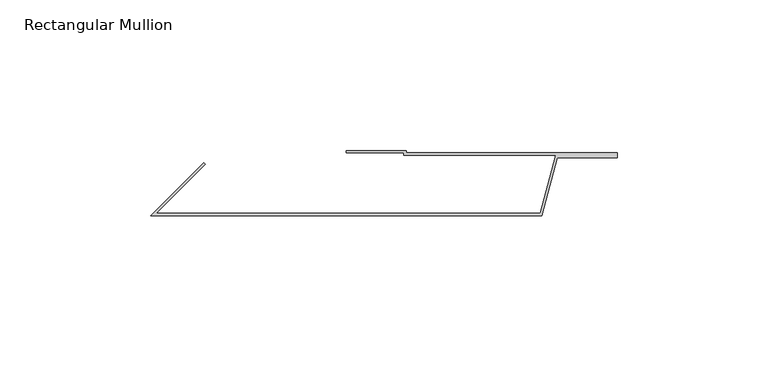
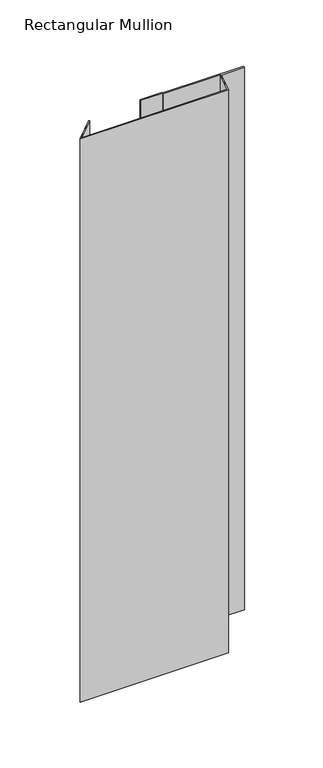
"""IFC4 building model written with IfcOpenShell, lengths in millimetres: member geometry, Rectangular Mullion : TE-V-01_02_Joint flashing."""

from ifc_helpers import new_model, si_unit, origin, place, context, project, spatial, faceted_brep, source, transform, mapped, element, save


def rectangular_mullion_5a0b59be(model_context):
    return source(origin(), model_context, "Body", "Brep", [
        faceted_brep([(0.0, 0.0, 0.0), (-20.0, 0.0, 0.0), (-20.0, -0.8, 0.0), (-0.8, -0.8, 0.0), (-0.8, -1.6, 0.0), (49.5625193, -1.6, 0.0), (44.3861384, -20.9185165, 0.0), (-83.0686292, -20.9185165, 0.0), (-66.756645, -4.6065324, 0.0), (-67.3223305, -4.040847, 0.0), (-85.0, -21.7185165, 0.0), (45.0, -21.7185165, 0.0), (50.1763809, -2.4, 0.0), (70.1186468, -2.4, 0.0), (70.1186468, -0.8, 0.0), (0.0, -0.8, 0.0), (0.0, 0.0, -500.0000003), (-20.0, 0.0, -500.0000003), (-20.0, -0.8, -500.8000003), (-0.8, -0.8, -500.8000003), (-0.8, -1.6, -501.6000003), (49.5625193, -1.6, -501.6000003), (44.3861384, -20.9185165, -520.9185168), (-83.0686292, -20.9185165, -520.9185168), (-66.756645, -4.6065324, -504.6065327), (-67.3223305, -4.040847, -504.0408473), (-85.0, -21.7185165, -521.7185168), (45.0, -21.7185165, -521.7185168), (50.1763809, -2.4, -502.4000003), (70.1186468, -2.4, -502.4000003), (70.1186468, -0.8, -500.8000003), (0.0, -0.8, -500.8000003)], [[[0, 1, 2, 3, 4, 5, 6, 7, 8, 9, 10, 11, 12, 13, 14, 15]], [[1, 0, 16, 17]], [[2, 1, 17, 18]], [[3, 2, 18, 19]], [[4, 3, 19, 20]], [[5, 4, 20, 21]], [[6, 5, 21, 22]], [[7, 6, 22, 23]], [[8, 7, 23, 24]], [[9, 8, 24, 25]], [[10, 9, 25, 26]], [[11, 10, 26, 27]], [[12, 11, 27, 28]], [[13, 12, 28, 29]], [[14, 13, 29, 30]], [[15, 14, 30, 31]], [[0, 15, 31, 16]], [[16, 31, 30, 29, 28, 27, 26, 25, 24, 23, 22, 21, 20, 19, 18, 17]]]),
    ])


if __name__ == "__main__":
    model = new_model("IFC4")
    model_context = context("Model", 3, world=origin())
    ifc_project = project(units=[si_unit("LENGTHUNIT", "METRE", prefix="MILLI")], contexts=[model_context])
    site = spatial("IfcSite", under=ifc_project)
    building = spatial("IfcBuilding", under=site)
    placement = place(None, origin())
    rectangular_mullion_shape = rectangular_mullion_5a0b59be(model_context)
    element("IfcMember", 1, ObjectType="Rectangular Mullion : TE-V-01_02_Joint flashing", at=placement, inside=building, context=model_context, shape_type="MappedRepresentation", body=[
        mapped(rectangular_mullion_shape, transform((0.0, 0.0, 0.0), x_axis=(1.0, 0.0, 0.0), y_axis=(0.0, 1.0, 0.0), z_axis=(0.0, 0.0, 1.0))),
    ])
    save(model, "model.ifc")
